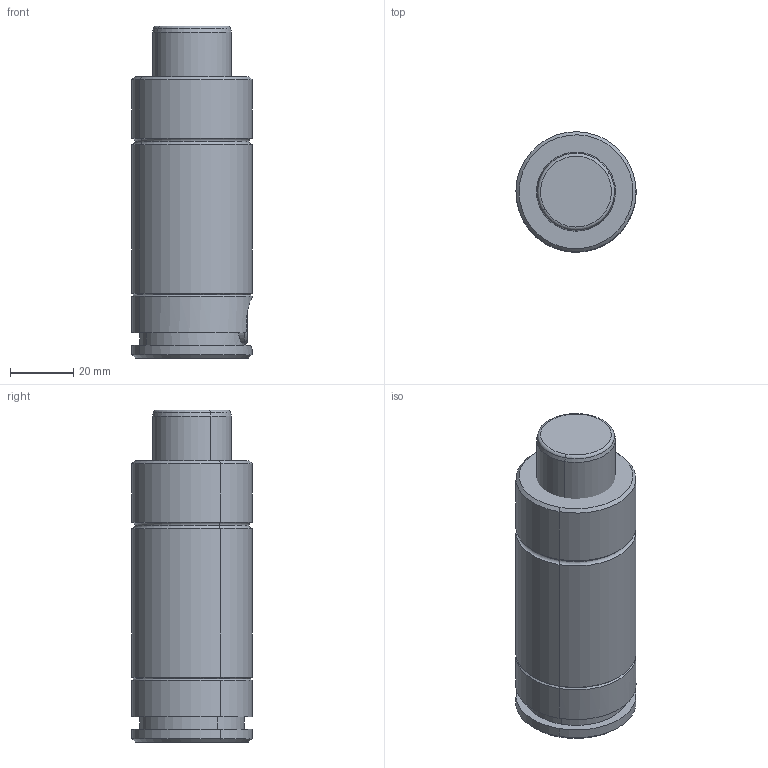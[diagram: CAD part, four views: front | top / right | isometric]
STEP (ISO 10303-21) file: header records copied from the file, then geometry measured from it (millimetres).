
FILE_DESCRIPTION(('CATIA V5 STEP Exchange'),'2;1');
FILE_NAME('W:\CATALOGO GENERAL 2018\FICHEROS CAD\003-TPH\TPH 1000C\TPH1000x15C.stp','2017-10-30T11:34:40+00:00',('none'),('none'),'CATIA Version 5 Release 17 (IN-10)','CATIA V5 STEP AP203','none');
FILE_SCHEMA(('CONFIG_CONTROL_DESIGN'));
Length unit declared in the file: millimetre
Products named in the file (1): TPH 1000x15C
Assembly tree (4 placements, depth 2):
  TPH 1000x15C
    #56
    #631
    #1424
    #2337
Bounding box: 37.99 x 37.99 x 105 mm (x, y, z)
Volume: 133261.9 mm3; surface area: 24693 mm2
Topology: 4 solids, 4 shells, 155 faces, 318 edges, 184 vertices
Faces by surface type: cone 44, cylinder 41, torus 40, plane 30
Entity records: 4076 total; most frequent: CARTESIAN_POINT 942, ORIENTED_EDGE 636, DIRECTION 540, EDGE_CURVE 318, AXIS2_PLACEMENT_3D 316, CIRCLE 192, VERTEX_POINT 184, EDGE_LOOP 168
